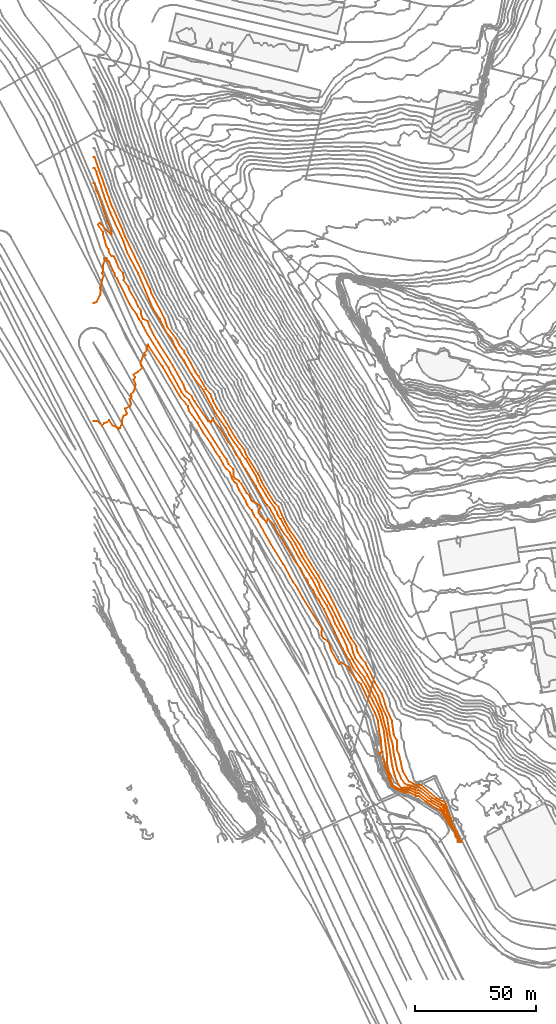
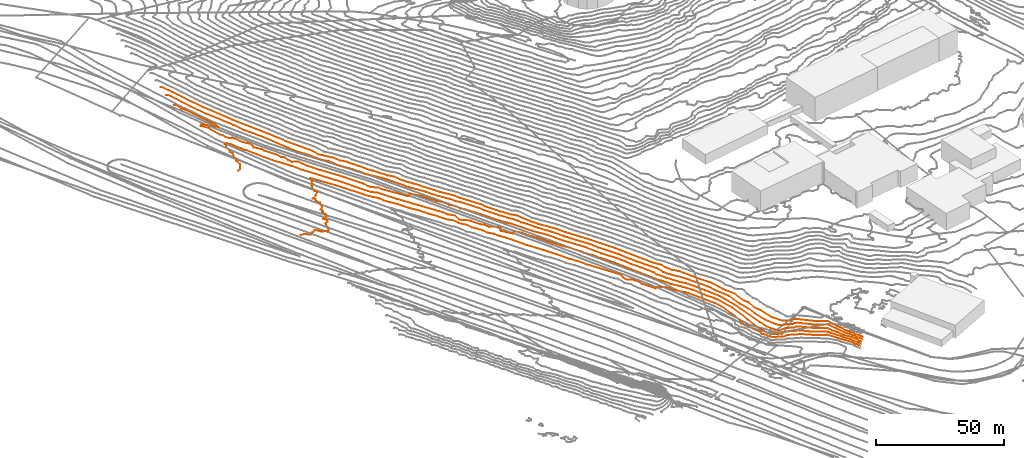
# Not in any storey, part 110 of 419: 5 proxies.
"""IFC2X3 model written with IfcOpenShell, lengths in metres."""

from ifc_helpers import new_model, entity, si_unit, frame, origin_with_axes, place, context, subcontext, project, element, save


model = new_model("IFC2X3")

# Units and contexts
model_context = context("Model", 3, precision=1e-05, world=origin_with_axes())
body_context = subcontext(model_context, "Body", "Model", "MODEL_VIEW")
ifc_project = project(units=[si_unit("AREAUNIT", "SQUARE_METRE"), si_unit("LENGTHUNIT", "METRE")], contexts=[model_context])

# Proxies
proxy_1_placement = place(None, frame((-0.4079795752, 172.6476909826, 5.0), z_axis=(0.0, 0.0, 1.0), x_axis=(1.0, 0.0, 0.0)))
element("IfcBuildingElementProxy", 1, at=proxy_1_placement, Name="Contour 5.0 m", ObjectType="NOTDEFINED", context=body_context, shape_type="GeometricCurveSet", body=[
    entity("IfcGeometricCurveSet", [entity("IfcPolyline", [entity("IfcCartesianPoint", [150.8974025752, -174.25, 0.0]), entity("IfcCartesianPoint", [150.6797385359, -172.75, 0.0]), entity("IfcCartesianPoint", [149.8858447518, -171.75, 0.0]), entity("IfcCartesianPoint", [149.5, -170.1622137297, 0.0]), entity("IfcCartesianPoint", [143.5, -160.9166665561, 0.0]), entity("IfcCartesianPoint", [141.5, -160.002525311, 0.0]), entity("IfcCartesianPoint", [137.5, -157.4318179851, 0.0]), entity("IfcCartesianPoint", [134.5, -155.0031643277, 0.0]), entity("IfcCartesianPoint", [133.5, -154.9833333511, 0.0]), entity("IfcCartesianPoint", [130.5, -153.4691010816, 0.0]), entity("IfcCartesianPoint", [129.5, -153.2590909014, 0.0]), entity("IfcCartesianPoint", [128.5, -153.5153061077, 0.0]), entity("IfcCartesianPoint", [124.5, -151.7500006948, 0.0]), entity("IfcCartesianPoint", [123.5, -150.777777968, 0.0]), entity("IfcCartesianPoint", [122.7352941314, -148.75, 0.0]), entity("IfcCartesianPoint", [122.0058823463, -147.75, 0.0]), entity("IfcCartesianPoint", [122.1259543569, -146.75, 0.0]), entity("IfcCartesianPoint", [120.5, -142.9121620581, 0.0]), entity("IfcCartesianPoint", [120.0196080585, -139.75, 0.0]), entity("IfcCartesianPoint", [118.4074074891, -137.75, 0.0]), entity("IfcCartesianPoint", [118.5, -136.916666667, 0.0]), entity("IfcCartesianPoint", [119.5, -136.9500012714, 0.0]), entity("IfcCartesianPoint", [119.5447764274, -136.75, 0.0]), entity("IfcCartesianPoint", [119.0862072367, -135.75, 0.0]), entity("IfcCartesianPoint", [118.9576269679, -131.75, 0.0]), entity("IfcCartesianPoint", [118.2307694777, -128.75, 0.0]), entity("IfcCartesianPoint", [117.5933335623, -123.75, 0.0]), entity("IfcCartesianPoint", [116.5, -120.634614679, 0.0]), entity("IfcCartesianPoint", [110.5769233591, -108.75, 0.0]), entity("IfcCartesianPoint", [108.5, -106.5277780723, 0.0]), entity("IfcCartesianPoint", [105.8548392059, -102.75, 0.0]), entity("IfcCartesianPoint", [105.5, -101.6854839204, 0.0]), entity("IfcCartesianPoint", [102.5, -99.7500333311, 0.0]), entity("IfcCartesianPoint", [101.5, -100.3214266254, 0.0]), entity("IfcCartesianPoint", [98.5, -95.1029406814, 0.0]), entity("IfcCartesianPoint", [97.4302321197, -91.75, 0.0]), entity("IfcCartesianPoint", [96.6578957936, -90.75, 0.0]), entity("IfcCartesianPoint", [95.0081965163, -89.75, 0.0]), entity("IfcCartesianPoint", [94.5, -88.9342109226, 0.0]), entity("IfcCartesianPoint", [94.2469878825, -87.75, 0.0]), entity("IfcCartesianPoint", [94.5526315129, -85.75, 0.0]), entity("IfcCartesianPoint", [86.5, -73.0, 0.0]), entity("IfcCartesianPoint", [84.5, -69.1428573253, 0.0]), entity("IfcCartesianPoint", [82.5, -66.232758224, 0.0]), entity("IfcCartesianPoint", [78.5, -58.9642857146, 0.0]), entity("IfcCartesianPoint", [72.7926827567, -49.75, 0.0]), entity("IfcCartesianPoint", [67.7954547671, -40.75, 0.0]), entity("IfcCartesianPoint", [66.3571425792, -38.75, 0.0]), entity("IfcCartesianPoint", [65.5, -36.826923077, 0.0]), entity("IfcCartesianPoint", [63.6562505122, -34.75, 0.0]), entity("IfcCartesianPoint", [62.9791666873, -32.75, 0.0]), entity("IfcCartesianPoint", [60.3837205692, -28.75, 0.0]), entity("IfcCartesianPoint", [59.202702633, -25.75, 0.0]), entity("IfcCartesianPoint", [58.5, -25.293859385, 0.0]), entity("IfcCartesianPoint", [57.4200000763, -23.75, 0.0]), entity("IfcCartesianPoint", [56.5, -21.1833334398, 0.0]), entity("IfcCartesianPoint", [55.013513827, -19.75, 0.0]), entity("IfcCartesianPoint", [53.6351355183, -17.75, 0.0]), entity("IfcCartesianPoint", [52.0806447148, -14.75, 0.0]), entity("IfcCartesianPoint", [50.5, -12.5760871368, 0.0]), entity("IfcCartesianPoint", [48.5, -9.0416670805, 0.0]), entity("IfcCartesianPoint", [45.4249994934, -4.75, 0.0]), entity("IfcCartesianPoint", [43.197674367, -0.75, 0.0]), entity("IfcCartesianPoint", [39.5697678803, 4.25, 0.0]), entity("IfcCartesianPoint", [39.031915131, 6.25, 0.0]), entity("IfcCartesianPoint", [35.8269232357, 10.25, 0.0]), entity("IfcCartesianPoint", [28.5, 22.694444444, 0.0]), entity("IfcCartesianPoint", [22.5, 31.6785733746, 0.0]), entity("IfcCartesianPoint", [22.1249992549, 31.25, 0.0]), entity("IfcCartesianPoint", [22.0000249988, 29.25, 0.0]), entity("IfcCartesianPoint", [21.0714266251, 28.25, 0.0]), entity("IfcCartesianPoint", [21.500049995, 27.25, 0.0]), entity("IfcCartesianPoint", [20.5, 26.9166613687, 0.0]), entity("IfcCartesianPoint", [19.5000333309, 24.25, 0.0]), entity("IfcCartesianPoint", [19.6666693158, 23.25, 0.0]), entity("IfcCartesianPoint", [20.2999961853, 22.25, 0.0]), entity("IfcCartesianPoint", [18.5, 20.4500038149, 0.0]), entity("IfcCartesianPoint", [16.500049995, 19.25, 0.0]), entity("IfcCartesianPoint", [17.25, 18.25, 0.0]), entity("IfcCartesianPoint", [16.7000038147, 17.25, 0.0]), entity("IfcCartesianPoint", [17.5000142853, 15.25, 0.0]), entity("IfcCartesianPoint", [16.7000038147, 12.25, 0.0]), entity("IfcCartesianPoint", [15.5000199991, 11.25, 0.0]), entity("IfcCartesianPoint", [15.7857133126, 10.25, 0.0]), entity("IfcCartesianPoint", [15.5, 9.5833386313, 0.0]), entity("IfcCartesianPoint", [15.0000499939, 9.25, 0.0]), entity("IfcCartesianPoint", [15.500049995, 7.25, 0.0]), entity("IfcCartesianPoint", [15.2499970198, 6.25, 0.0]), entity("IfcCartesianPoint", [13.0000124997, 5.25, 0.0]), entity("IfcCartesianPoint", [14.000016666, 3.25, 0.0]), entity("IfcCartesianPoint", [13.5, 2.649998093, 0.0]), entity("IfcCartesianPoint", [12.500049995, 2.25, 0.0]), entity("IfcCartesianPoint", [12.0000249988, 1.25, 0.0]), entity("IfcCartesianPoint", [11.7857133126, -0.75, 0.0]), entity("IfcCartesianPoint", [11.0000499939, -2.75, 0.0]), entity("IfcCartesianPoint", [10.5, -3.2500499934, 0.0]), entity("IfcCartesianPoint", [10.1666613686, -2.75, 0.0]), entity("IfcCartesianPoint", [7.9999500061, -1.75, 0.0]), entity("IfcCartesianPoint", [6.5, 0.4038458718, 0.0]), entity("IfcCartesianPoint", [5.5, -0.4642866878, 0.0]), entity("IfcCartesianPoint", [4.5, -0.7500333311, 0.0]), entity("IfcCartesianPoint", [3.5, -1.750016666, 0.0]), entity("IfcCartesianPoint", [1.5, -2.9802e-06, 0.0]), entity("IfcCartesianPoint", [0.0, 0.0, 0.0])])]),
])
proxy_2_placement = place(None, frame((-0.4079795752, 221.5405476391, 6.0), z_axis=(0.0, 0.0, 1.0), x_axis=(1.0, 0.0, 0.0)))
element("IfcBuildingElementProxy", 2, at=proxy_2_placement, Name="Contour 6.0 m", ObjectType="NOTDEFINED", context=body_context, shape_type="GeometricCurveSet", body=[
    entity("IfcGeometricCurveSet", [entity("IfcPolyline", [entity("IfcCartesianPoint", [151.1571428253, -223.1428566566, 0.0]), entity("IfcCartesianPoint", [150.843137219, -221.6428566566, 0.0]), entity("IfcCartesianPoint", [150.1141552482, -220.6428566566, 0.0]), entity("IfcCartesianPoint", [149.5, -218.6733909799, 0.0]), entity("IfcCartesianPoint", [147.4124999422, -215.6428566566, 0.0]), entity("IfcCartesianPoint", [147.1310679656, -214.6428566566, 0.0]), entity("IfcCartesianPoint", [144.6133333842, -210.6428566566, 0.0]), entity("IfcCartesianPoint", [144.3148149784, -209.6428566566, 0.0]), entity("IfcCartesianPoint", [143.5, -208.7539678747, 0.0]), entity("IfcCartesianPoint", [138.1153846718, -205.6428566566, 0.0]), entity("IfcCartesianPoint", [134.5, -202.6904756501, 0.0]), entity("IfcCartesianPoint", [133.5, -202.765079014, 0.0]), entity("IfcCartesianPoint", [130.5, -201.2792202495, 0.0]), entity("IfcCartesianPoint", [127.5, -201.3074907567, 0.0]), entity("IfcCartesianPoint", [126.5, -200.9742520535, 0.0]), entity("IfcCartesianPoint", [124.5, -200.0018309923, 0.0]), entity("IfcCartesianPoint", [123.5, -198.608373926, 0.0]), entity("IfcCartesianPoint", [122.7711863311, -196.6428566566, 0.0]), entity("IfcCartesianPoint", [123.0049506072, -195.6428566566, 0.0]), entity("IfcCartesianPoint", [122.4495798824, -194.6428566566, 0.0]), entity("IfcCartesianPoint", [121.4999983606, -190.6428566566, 0.0]), entity("IfcCartesianPoint", [121.3124996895, -186.6428566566, 0.0]), entity("IfcCartesianPoint", [120.0606060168, -176.6428566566, 0.0]), entity("IfcCartesianPoint", [117.7702700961, -168.6428566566, 0.0]), entity("IfcCartesianPoint", [115.5704228, -164.6428566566, 0.0]), entity("IfcCartesianPoint", [112.8205127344, -158.6428566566, 0.0]), entity("IfcCartesianPoint", [110.5, -154.8701291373, 0.0]), entity("IfcCartesianPoint", [107.5, -150.9458867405, 0.0]), entity("IfcCartesianPoint", [105.8400001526, -147.6428566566, 0.0]), entity("IfcCartesianPoint", [104.3823529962, -145.6428566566, 0.0]), entity("IfcCartesianPoint", [95.3292680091, -126.6428566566, 0.0]), entity("IfcCartesianPoint", [93.1, -122.6428566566, 0.0]), entity("IfcCartesianPoint", [92.2209303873, -121.6428566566, 0.0]), entity("IfcCartesianPoint", [90.8636359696, -118.6428566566, 0.0]), entity("IfcCartesianPoint", [88.7058827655, -115.6428566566, 0.0]), entity("IfcCartesianPoint", [88.5, -114.5928555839, 0.0]), entity("IfcCartesianPoint", [87.0416665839, -112.6428566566, 0.0]), entity("IfcCartesianPoint", [85.5, -109.5124209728, 0.0]), entity("IfcCartesianPoint", [83.9838713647, -107.6428566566, 0.0]), entity("IfcCartesianPoint", [77.5, -96.7539677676, 0.0]), entity("IfcCartesianPoint", [75.8793108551, -94.6428566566, 0.0]), entity("IfcCartesianPoint", [74.5, -91.6428691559, 0.0]), entity("IfcCartesianPoint", [72.5, -89.3928536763, 0.0]), entity("IfcCartesianPoint", [72.0000499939, -89.6428566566, 0.0]), entity("IfcCartesianPoint", [71.5, -90.6428816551, 0.0]), entity("IfcCartesianPoint", [69.5, -88.4553557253, 0.0]), entity("IfcCartesianPoint", [68.25, -86.6428566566, 0.0]), entity("IfcCartesianPoint", [68.2600002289, -85.6428566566, 0.0]), entity("IfcCartesianPoint", [69.1499996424, -84.6428566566, 0.0]), entity("IfcCartesianPoint", [68.3666668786, -83.6428566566, 0.0]), entity("IfcCartesianPoint", [67.0624998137, -82.6428566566, 0.0]), entity("IfcCartesianPoint", [65.5, -81.849753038, 0.0]), entity("IfcCartesianPoint", [64.4999969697, -79.6428566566, 0.0]), entity("IfcCartesianPoint", [63.388889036, -78.6428566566, 0.0]), entity("IfcCartesianPoint", [61.2391307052, -74.6428566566, 0.0]), entity("IfcCartesianPoint", [60.3157890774, -73.6428566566, 0.0]), entity("IfcCartesianPoint", [58.5, -72.5974021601, 0.0]), entity("IfcCartesianPoint", [57.9939757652, -71.6428566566, 0.0]), entity("IfcCartesianPoint", [57.833333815, -68.6428566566, 0.0]), entity("IfcCartesianPoint", [55.9285718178, -66.6428566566, 0.0]), entity("IfcCartesianPoint", [55.0249999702, -64.6428566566, 0.0]), entity("IfcCartesianPoint", [43.9750000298, -47.6428566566, 0.0]), entity("IfcCartesianPoint", [39.5, -40.0999992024, 0.0]), entity("IfcCartesianPoint", [37.8333329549, -38.6428566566, 0.0]), entity("IfcCartesianPoint", [36.5, -36.8861000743, 0.0]), entity("IfcCartesianPoint", [30.972222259, -26.6428566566, 0.0]), entity("IfcCartesianPoint", [21.5, -11.4689437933, 0.0]), entity("IfcCartesianPoint", [19.7307694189, -7.6428566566, 0.0]), entity("IfcCartesianPoint", [18.8199996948, -6.6428566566, 0.0]), entity("IfcCartesianPoint", [17.8589741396, -4.6428566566, 0.0]), entity("IfcCartesianPoint", [15.0820892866, -0.6428566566, 0.0]), entity("IfcCartesianPoint", [9.6999998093, 10.3571433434, 0.0]), entity("IfcCartesianPoint", [8.8947369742, 11.3571433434, 0.0]), entity("IfcCartesianPoint", [8.7857140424, 12.3571433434, 0.0]), entity("IfcCartesianPoint", [8.0384615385, 13.3571433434, 0.0]), entity("IfcCartesianPoint", [6.5, 17.041354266, 0.0]), entity("IfcCartesianPoint", [6.038462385, 17.3571433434, 0.0]), entity("IfcCartesianPoint", [5.5, 18.4821455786, 0.0]), entity("IfcCartesianPoint", [4.5000999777, 18.3571433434, 0.0]), entity("IfcCartesianPoint", [4.6250022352, 17.3571433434, 0.0]), entity("IfcCartesianPoint", [4.1000019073, 16.3571433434, 0.0]), entity("IfcCartesianPoint", [4.0000499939, 13.3571433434, 0.0]), entity("IfcCartesianPoint", [3.6428600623, 12.3571433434, 0.0]), entity("IfcCartesianPoint", [4.2499970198, 11.3571433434, 0.0]), entity("IfcCartesianPoint", [3.5, 9.3570433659, 0.0]), entity("IfcCartesianPoint", [3.3999980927, 7.3571433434, 0.0]), entity("IfcCartesianPoint", [2.7500029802, 6.3571433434, 0.0]), entity("IfcCartesianPoint", [3.0000249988, 5.3571433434, 0.0]), entity("IfcCartesianPoint", [2.8333333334, 3.3571433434, 0.0]), entity("IfcCartesianPoint", [1.2142866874, 0.3571433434, 0.0]), entity("IfcCartesianPoint", [0.0, 0.0, 0.0])])]),
])
proxy_3_placement = place(None, frame((-0.4079795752, 271.2053827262, 7.0), z_axis=(0.0, 0.0, 1.0), x_axis=(1.0, 0.0, 0.0)))
element("IfcBuildingElementProxy", 3, at=proxy_3_placement, Name="Contour 7.0 m", ObjectType="NOTDEFINED", context=body_context, shape_type="GeometricCurveSet", body=[
    entity("IfcGeometricCurveSet", [entity("IfcPolyline", [entity("IfcCartesianPoint", [151.4168830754, -272.8076917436, 0.0]), entity("IfcCartesianPoint", [149.7317380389, -268.3076917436, 0.0]), entity("IfcCartesianPoint", [147.7201834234, -265.3076917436, 0.0]), entity("IfcCartesianPoint", [146.5377358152, -262.3076917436, 0.0]), entity("IfcCartesianPoint", [145.2800000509, -260.3076917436, 0.0]), entity("IfcCartesianPoint", [144.5, -257.8946481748, 0.0]), entity("IfcCartesianPoint", [139.7857140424, -255.3076917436, 0.0]), entity("IfcCartesianPoint", [135.5, -251.6943583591, 0.0]), entity("IfcCartesianPoint", [134.5, -251.1510650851, 0.0]), entity("IfcCartesianPoint", [133.5, -251.3188031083, 0.0]), entity("IfcCartesianPoint", [130.5, -249.9713281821, 0.0]), entity("IfcCartesianPoint", [128.5, -249.9919021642, 0.0]), entity("IfcCartesianPoint", [127.3269227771, -250.3076917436, 0.0]), entity("IfcCartesianPoint", [125.4512195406, -247.3076917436, 0.0]), entity("IfcCartesianPoint", [124.6590912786, -245.3076917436, 0.0]), entity("IfcCartesianPoint", [123.6454544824, -241.3076917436, 0.0]), entity("IfcCartesianPoint", [121.1513760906, -226.3076917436, 0.0]), entity("IfcCartesianPoint", [119.8432835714, -221.3076917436, 0.0]), entity("IfcCartesianPoint", [118.9842106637, -218.3076917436, 0.0]), entity("IfcCartesianPoint", [116.2297299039, -212.3076917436, 0.0]), entity("IfcCartesianPoint", [112.0806450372, -204.3076917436, 0.0]), entity("IfcCartesianPoint", [110.5, -202.4140750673, 0.0]), entity("IfcCartesianPoint", [107.2882354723, -197.3076917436, 0.0]), entity("IfcCartesianPoint", [105.1956524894, -193.3076917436, 0.0]), entity("IfcCartesianPoint", [104.6886791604, -191.3076917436, 0.0]), entity("IfcCartesianPoint", [102.3431373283, -186.3076917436, 0.0]), entity("IfcCartesianPoint", [99.9696969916, -182.3076917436, 0.0]), entity("IfcCartesianPoint", [98.8714287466, -179.3076917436, 0.0]), entity("IfcCartesianPoint", [96.5, -174.8219771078, 0.0]), entity("IfcCartesianPoint", [93.6851850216, -170.3076917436, 0.0]), entity("IfcCartesianPoint", [90.2500002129, -163.3076917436, 0.0]), entity("IfcCartesianPoint", [85.1428574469, -155.3076917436, 0.0]), entity("IfcCartesianPoint", [81.5, -148.5804195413, 0.0]), entity("IfcCartesianPoint", [77.7666665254, -143.3076917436, 0.0]), entity("IfcCartesianPoint", [72.8333333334, -134.3076917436, 0.0]), entity("IfcCartesianPoint", [71.8611112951, -133.3076917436, 0.0]), entity("IfcCartesianPoint", [69.8611112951, -130.3076917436, 0.0]), entity("IfcCartesianPoint", [67.2105260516, -125.3076917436, 0.0]), entity("IfcCartesianPoint", [62.9411765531, -118.3076917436, 0.0]), entity("IfcCartesianPoint", [61.3928564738, -116.3076917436, 0.0]), entity("IfcCartesianPoint", [60.5, -114.0993578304, 0.0]), entity("IfcCartesianPoint", [58.9999975, -112.3076917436, 0.0]), entity("IfcCartesianPoint", [57.5, -109.2124537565, 0.0]), entity("IfcCartesianPoint", [55.9516125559, -107.3076917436, 0.0]), entity("IfcCartesianPoint", [52.5, -101.6018103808, 0.0]), entity("IfcCartesianPoint", [49.7307706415, -98.3076917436, 0.0]), entity("IfcCartesianPoint", [49.5, -97.3077250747, 0.0]), entity("IfcCartesianPoint", [48.5, -99.1076879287, 0.0]), entity("IfcCartesianPoint", [47.5, -98.4951926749, 0.0]), entity("IfcCartesianPoint", [41.7903231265, -90.3076917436, 0.0]), entity("IfcCartesianPoint", [40.7692311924, -88.3076917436, 0.0]), entity("IfcCartesianPoint", [38.5, -86.3076949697, 0.0]), entity("IfcCartesianPoint", [37.8043475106, -85.3076917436, 0.0]), entity("IfcCartesianPoint", [37.2692305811, -83.3076917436, 0.0]), entity("IfcCartesianPoint", [32.7826089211, -75.3076917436, 0.0]), entity("IfcCartesianPoint", [26.9883723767, -66.3076917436, 0.0]), entity("IfcCartesianPoint", [24.5, -61.8791196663, 0.0]), entity("IfcCartesianPoint", [23.2021278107, -59.3076917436, 0.0]), entity("IfcCartesianPoint", [22.5789478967, -57.3076917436, 0.0]), entity("IfcCartesianPoint", [20.5, -56.2754329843, 0.0]), entity("IfcCartesianPoint", [19.7641508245, -54.3076917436, 0.0]), entity("IfcCartesianPoint", [19.5526315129, -52.3076917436, 0.0]), entity("IfcCartesianPoint", [18.5, -51.1900448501, 0.0]), entity("IfcCartesianPoint", [17.5, -48.6410261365, 0.0]), entity("IfcCartesianPoint", [14.9285720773, -44.3076917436, 0.0]), entity("IfcCartesianPoint", [14.5, -42.879118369, 0.0]), entity("IfcCartesianPoint", [12.5, -40.3077042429, 0.0]), entity("IfcCartesianPoint", [12.6764717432, -39.3076917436, 0.0]), entity("IfcCartesianPoint", [12.2857133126, -37.3076917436, 0.0]), entity("IfcCartesianPoint", [10.5, -35.1076879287, 0.0]), entity("IfcCartesianPoint", [9.0555567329, -31.3076917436, 0.0]), entity("IfcCartesianPoint", [8.5, -30.4743610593, 0.0]), entity("IfcCartesianPoint", [7.5, -30.2076898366, 0.0]), entity("IfcCartesianPoint", [6.5, -28.8077017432, 0.0]), entity("IfcCartesianPoint", [6.1818185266, -27.3076917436, 0.0]), entity("IfcCartesianPoint", [5.4117647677, -26.3076917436, 0.0]), entity("IfcCartesianPoint", [3.9999750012, -21.3076917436, 0.0]), entity("IfcCartesianPoint", [3.999983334, -20.3076917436, 0.0]), entity("IfcCartesianPoint", [1.8571433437, -17.3076917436, 0.0]), entity("IfcCartesianPoint", [2.5, -16.664835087, 0.0]), entity("IfcCartesianPoint", [3.3999980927, -17.3076917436, 0.0]), entity("IfcCartesianPoint", [7.5, -21.6410303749, 0.0]), entity("IfcCartesianPoint", [7.3749977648, -19.3076917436, 0.0]), entity("IfcCartesianPoint", [5.9400005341, -16.3076917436, 0.0]), entity("IfcCartesianPoint", [2.3571424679, -5.3076917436, 0.0]), entity("IfcCartesianPoint", [1.3139535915, -3.3076917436, 0.0]), entity("IfcCartesianPoint", [0.5, 0.0, 0.0]), entity("IfcCartesianPoint", [0.0, 0.0, 0.0])])]),
])
proxy_4_placement = place(None, frame((-0.4079795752, 277.3187441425, 8.0), z_axis=(0.0, 0.0, 1.0), x_axis=(1.0, 0.0, 0.0)))
element("IfcBuildingElementProxy", 4, at=proxy_4_placement, Name="Contour 8.0 m", ObjectType="NOTDEFINED", context=body_context, shape_type="GeometricCurveSet", body=[
    entity("IfcGeometricCurveSet", [entity("IfcPolyline", [entity("IfcCartesianPoint", [151.7546816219, -278.92105316, 0.0]), entity("IfcCartesianPoint", [151.7546816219, -278.42105316, 0.0]), entity("IfcCartesianPoint", [150.5, -276.2880059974, 0.0]), entity("IfcCartesianPoint", [149.9836271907, -274.42105316, 0.0]), entity("IfcCartesianPoint", [148.0259938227, -271.42105316, 0.0]), entity("IfcCartesianPoint", [147.5, -269.4437809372, 0.0]), entity("IfcCartesianPoint", [145.0168537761, -263.42105316, 0.0]), entity("IfcCartesianPoint", [140.053846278, -260.42105316, 0.0]), entity("IfcCartesianPoint", [135.5, -256.4615933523, 0.0]), entity("IfcCartesianPoint", [134.5, -256.0639101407, 0.0]), entity("IfcCartesianPoint", [133.5, -256.3199294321, 0.0]), entity("IfcCartesianPoint", [131.5, -255.3988309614, 0.0]), entity("IfcCartesianPoint", [129.5, -255.0000007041, 0.0]), entity("IfcCartesianPoint", [128.7142860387, -254.42105316, 0.0]), entity("IfcCartesianPoint", [127.2872333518, -252.42105316, 0.0]), entity("IfcCartesianPoint", [125.5769230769, -248.42105316, 0.0]), entity("IfcCartesianPoint", [124.2733332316, -242.42105316, 0.0]), entity("IfcCartesianPoint", [123.7615387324, -238.42105316, 0.0]), entity("IfcCartesianPoint", [122.5, -233.9543856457, 0.0]), entity("IfcCartesianPoint", [121.4999982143, -227.42105316, 0.0]), entity("IfcCartesianPoint", [118.8064515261, -221.42105316, 0.0]), entity("IfcCartesianPoint", [117.923728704, -218.42105316, 0.0]), entity("IfcCartesianPoint", [113.2115389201, -209.42105316, 0.0]), entity("IfcCartesianPoint", [111.3333324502, -206.42105316, 0.0]), entity("IfcCartesianPoint", [108.2692309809, -202.42105316, 0.0]), entity("IfcCartesianPoint", [107.4508200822, -200.42105316, 0.0]), entity("IfcCartesianPoint", [106.7340429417, -197.42105316, 0.0]), entity("IfcCartesianPoint", [102.2719296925, -189.42105316, 0.0]), entity("IfcCartesianPoint", [98.3750000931, -181.42105316, 0.0]), entity("IfcCartesianPoint", [93.8076923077, -173.42105316, 0.0]), entity("IfcCartesianPoint", [93.066038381, -171.42105316, 0.0]), entity("IfcCartesianPoint", [91.9098362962, -169.42105316, 0.0]), entity("IfcCartesianPoint", [86.2586202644, -160.42105316, 0.0]), entity("IfcCartesianPoint", [83.6818180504, -155.42105316, 0.0]), entity("IfcCartesianPoint", [80.3358213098, -150.42105316, 0.0]), entity("IfcCartesianPoint", [77.5, -145.2165076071, 0.0]), entity("IfcCartesianPoint", [76.5, -143.9362050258, 0.0]), entity("IfcCartesianPoint", [75.9814819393, -142.42105316, 0.0]), entity("IfcCartesianPoint", [74.8333333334, -140.42105316, 0.0]), entity("IfcCartesianPoint", [71.4799995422, -135.42105316, 0.0]), entity("IfcCartesianPoint", [68.0245903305, -129.42105316, 0.0]), entity("IfcCartesianPoint", [67.2555562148, -127.42105316, 0.0]), entity("IfcCartesianPoint", [63.1000003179, -120.42105316, 0.0]), entity("IfcCartesianPoint", [61.5185189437, -118.42105316, 0.0]), entity("IfcCartesianPoint", [60.4534873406, -116.42105316, 0.0]), entity("IfcCartesianPoint", [56.2741931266, -110.42105316, 0.0]), entity("IfcCartesianPoint", [54.8098590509, -107.42105316, 0.0]), entity("IfcCartesianPoint", [50.5, -101.2335534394, 0.0]), entity("IfcCartesianPoint", [45.5, -91.8825919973, 0.0]), entity("IfcCartesianPoint", [40.5, -85.1107077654, 0.0]), entity("IfcCartesianPoint", [37.5, -79.5810530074, 0.0]), entity("IfcCartesianPoint", [34.0789473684, -74.42105316, 0.0]), entity("IfcCartesianPoint", [32.2666674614, -70.42105316, 0.0]), entity("IfcCartesianPoint", [29.862069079, -67.42105316, 0.0]), entity("IfcCartesianPoint", [27.4677412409, -62.42105316, 0.0]), entity("IfcCartesianPoint", [24.8214294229, -58.42105316, 0.0]), entity("IfcCartesianPoint", [18.4999967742, -43.42105316, 0.0]), entity("IfcCartesianPoint", [14.225000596, -35.42105316, 0.0]), entity("IfcCartesianPoint", [12.499997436, -30.42105316, 0.0]), entity("IfcCartesianPoint", [6.9999971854, -18.42105316, 0.0]), entity("IfcCartesianPoint", [4.3750004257, -11.42105316, 0.0]), entity("IfcCartesianPoint", [1.2021270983, -1.42105316, 0.0]), entity("IfcCartesianPoint", [0.5, 0.0, 0.0]), entity("IfcCartesianPoint", [0.0, 0.0, 0.0])])]),
])
proxy_5_placement = place(None, frame((-0.4079795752, 281.8976843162, 9.0), z_axis=(0.0, 0.0, 1.0), x_axis=(1.0, 0.0, 0.0)))
element("IfcBuildingElementProxy", 5, at=proxy_5_placement, Name="Contour 9.0 m", ObjectType="NOTDEFINED", context=body_context, shape_type="GeometricCurveSet", body=[
    entity("IfcGeometricCurveSet", [entity("IfcPolyline", [entity("IfcCartesianPoint", [152.1292135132, -283.4999933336, 0.0]), entity("IfcCartesianPoint", [152.1292135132, -282.9999933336, 0.0]), entity("IfcCartesianPoint", [151.5, -282.3777712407, 0.0]), entity("IfcCartesianPoint", [151.0622316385, -280.9999933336, 0.0]), entity("IfcCartesianPoint", [150.5, -280.4377616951, 0.0]), entity("IfcCartesianPoint", [150.2355163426, -278.9999933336, 0.0]), entity("IfcCartesianPoint", [149.3178634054, -277.9999933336, 0.0]), entity("IfcCartesianPoint", [149.1530611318, -276.9999933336, 0.0]), entity("IfcCartesianPoint", [148.3318042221, -275.9999933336, 0.0]), entity("IfcCartesianPoint", [148.0051545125, -273.9999933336, 0.0]), entity("IfcCartesianPoint", [147.0360825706, -271.9999933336, 0.0]), entity("IfcCartesianPoint", [145.5294115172, -266.9999933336, 0.0]), entity("IfcCartesianPoint", [141.6034488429, -264.9999933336, 0.0]), entity("IfcCartesianPoint", [135.5, -259.7026959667, 0.0]), entity("IfcCartesianPoint", [134.5, -259.4457763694, 0.0]), entity("IfcCartesianPoint", [133.5, -259.7777712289, 0.0]), entity("IfcCartesianPoint", [130.5, -258.232552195, 0.0]), entity("IfcCartesianPoint", [127.9528299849, -253.9999933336, 0.0]), entity("IfcCartesianPoint", [126.4250005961, -246.9999933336, 0.0]), entity("IfcCartesianPoint", [125.4531253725, -244.9999933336, 0.0]), entity("IfcCartesianPoint", [125.4687493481, -240.9999933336, 0.0]), entity("IfcCartesianPoint", [124.2068963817, -238.9999933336, 0.0]), entity("IfcCartesianPoint", [123.3928564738, -232.9999933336, 0.0]), entity("IfcCartesianPoint", [121.1721312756, -227.9999933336, 0.0]), entity("IfcCartesianPoint", [119.3301883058, -221.9999933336, 0.0]), entity("IfcCartesianPoint", [116.5, -217.2999936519, 0.0]), entity("IfcCartesianPoint", [112.4302330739, -208.9999933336, 0.0]), entity("IfcCartesianPoint", [110.6395357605, -206.9999933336, 0.0]), entity("IfcCartesianPoint", [109.4787229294, -204.9999933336, 0.0]), entity("IfcCartesianPoint", [109.0283016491, -203.9999933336, 0.0]), entity("IfcCartesianPoint", [108.6944448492, -201.9999933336, 0.0]), entity("IfcCartesianPoint", [106.4999985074, -198.9999933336, 0.0]), entity("IfcCartesianPoint", [98.1428571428, -181.9999933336, 0.0]), entity("IfcCartesianPoint", [93.0166670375, -172.9999933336, 0.0]), entity("IfcCartesianPoint", [87.3064517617, -163.9999933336, 0.0]), entity("IfcCartesianPoint", [85.2540988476, -159.9999933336, 0.0]), entity("IfcCartesianPoint", [81.0844157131, -153.9999933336, 0.0]), entity("IfcCartesianPoint", [79.3314609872, -150.9999933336, 0.0]), entity("IfcCartesianPoint", [76.5, -144.5416609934, 0.0]), entity("IfcCartesianPoint", [75.0079359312, -142.9999933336, 0.0]), entity("IfcCartesianPoint", [72.3641978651, -138.9999933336, 0.0]), entity("IfcCartesianPoint", [69.4861107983, -133.9999933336, 0.0]), entity("IfcCartesianPoint", [68.1493502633, -130.9999933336, 0.0]), entity("IfcCartesianPoint", [63.201492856, -122.9999933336, 0.0]), entity("IfcCartesianPoint", [62.3965511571, -120.9999933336, 0.0]), entity("IfcCartesianPoint", [58.7105262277, -115.9999933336, 0.0]), entity("IfcCartesianPoint", [52.5, -105.5945888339, 0.0]), entity("IfcCartesianPoint", [51.2166667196, -103.9999933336, 0.0]), entity("IfcCartesianPoint", [49.5350884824, -100.9999933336, 0.0]), entity("IfcCartesianPoint", [48.4347831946, -97.9999933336, 0.0]), entity("IfcCartesianPoint", [46.6578950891, -95.9999933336, 0.0]), entity("IfcCartesianPoint", [43.5, -90.6666589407, 0.0]), entity("IfcCartesianPoint", [42.2209306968, -88.9999933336, 0.0]), entity("IfcCartesianPoint", [40.2600002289, -84.9999933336, 0.0]), entity("IfcCartesianPoint", [37.7894739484, -80.9999933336, 0.0]), entity("IfcCartesianPoint", [37.499997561, -79.9999933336, 0.0]), entity("IfcCartesianPoint", [35.6346149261, -77.9999933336, 0.0]), entity("IfcCartesianPoint", [34.2424240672, -74.9999933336, 0.0]), entity("IfcCartesianPoint", [30.5, -70.193542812, 0.0]), entity("IfcCartesianPoint", [29.5, -66.7599916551, 0.0]), entity("IfcCartesianPoint", [23.8380278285, -55.9999933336, 0.0]), entity("IfcCartesianPoint", [23.5, -54.7058746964, 0.0]), entity("IfcCartesianPoint", [20.3999993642, -47.9999933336, 0.0]), entity("IfcCartesianPoint", [13.1470587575, -32.9999933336, 0.0]), entity("IfcCartesianPoint", [12.0573767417, -29.9999933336, 0.0]), entity("IfcCartesianPoint", [7.5441172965, -19.9999933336, 0.0]), entity("IfcCartesianPoint", [0.5, 0.0, 0.0]), entity("IfcCartesianPoint", [0.0, 0.0, 0.0])])]),
])

save(model, "model.ifc")
